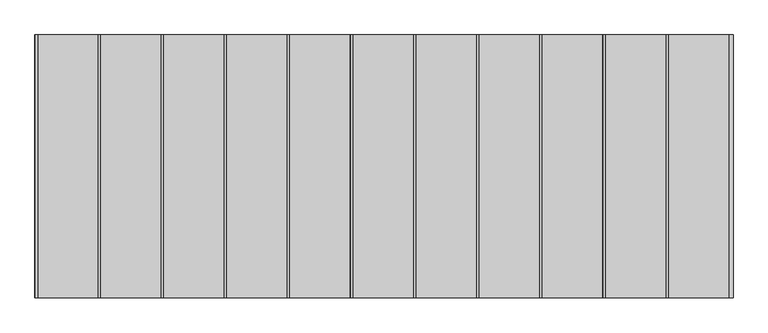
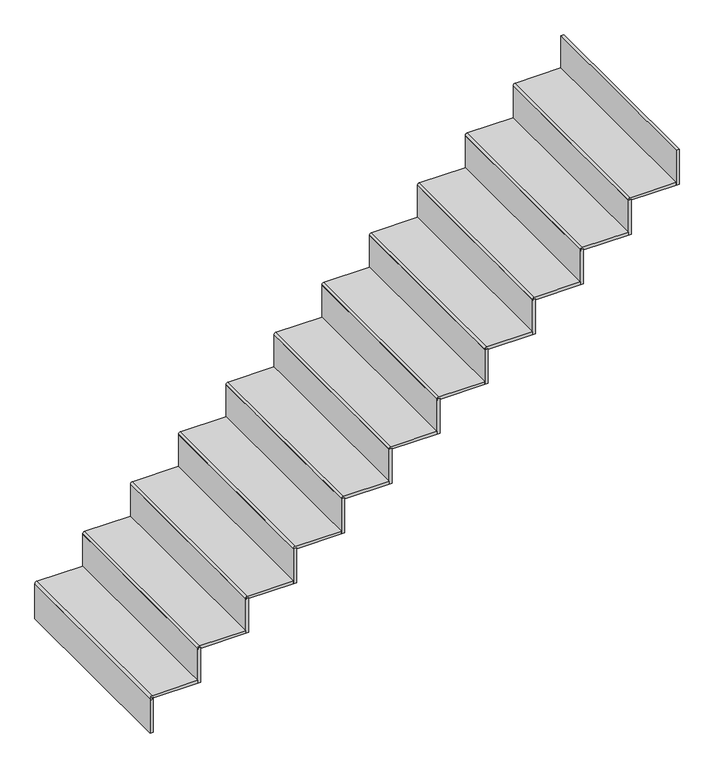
"""IFC4 building model written with IfcOpenShell, lengths in millimetres: stair flight geometry, メタル階段 15 mm 踏み板 15 mm 蹴上げ."""

from ifc_helpers import new_model, si_unit, point, frame, frame_2d, origin, place, context, project, spatial, polyline, circle_curve, trimmed, segment, composite_curve, outline, extrude, source, transform, mapped, element, save


def stair_flight_15dfc8d3(model_context):
    return source(origin(), model_context, "Body", "SweptSolid", [
        extrude(outline(composite_curve([segment(polyline([(1820.0, -3157.3880564), (1820.0, -3387.3880564)]), True, "CONTINUOUS"), segment(trimmed(circle_curve(frame_2d((1810.0, -3387.3880564)), 10.0), [point((1820.0, -3387.3880564))], [point((1800.0, -3387.3880564))], False, "CARTESIAN"), True, "CONTINUOUS"), segment(polyline([(1800.0, -3387.3880564), (1805.0, -3387.3880564), (1805.0, -3157.3880564), (1820.0, -3157.3880564)]), True, "CONTINUOUS")], self_intersect=False)), frame((0.0, 1281.5382733, 0.0), z_axis=(0.0, 1.0, 0.0), x_axis=(0.0, 0.0, 1.0)), (0.0, 0.0, 1.0), 1000.0),
        extrude(outline(polyline([(-3382.3880564, 1281.5382733), (-3397.3880564, 1281.5382733), (-3397.3880564, 2281.5382733), (-3382.3880564, 2281.5382733), (-3382.3880564, 1281.5382733)])), frame((0.0, 0.0, 1625.0), z_axis=(0.0, 0.0, 1.0), x_axis=(1.0, 0.0, 0.0)), (0.0, 0.0, 1.0), 185.0),
        extrude(outline(polyline([(-3142.3880564, 1281.5382733), (-3157.3880564, 1281.5382733), (-3157.3880564, 2281.5382733), (-3142.3880564, 2281.5382733), (-3142.3880564, 1281.5382733)])), frame((0.0, 0.0, 1805.0), z_axis=(0.0, 0.0, 1.0), x_axis=(1.0, 0.0, 0.0)), (0.0, 0.0, 1.0), 185.0),
        extrude(outline(composite_curve([segment(polyline([(2000.0, -2917.3880564), (2000.0, -3147.3880564)]), True, "CONTINUOUS"), segment(trimmed(circle_curve(frame_2d((1990.0, -3147.3880564)), 10.0), [point((2000.0, -3147.3880564))], [point((1980.0, -3147.3880564))], False, "CARTESIAN"), True, "CONTINUOUS"), segment(polyline([(1980.0, -3147.3880564), (1985.0, -3147.3880564), (1985.0, -2917.3880564), (2000.0, -2917.3880564)]), True, "CONTINUOUS")], self_intersect=False)), frame((0.0, 1281.5382733, 0.0), z_axis=(0.0, 1.0, 0.0), x_axis=(0.0, 0.0, 1.0)), (0.0, 0.0, 1.0), 1000.0),
        extrude(outline(polyline([(-2902.3880564, 1281.5382733), (-2917.3880564, 1281.5382733), (-2917.3880564, 2281.5382733), (-2902.3880564, 2281.5382733), (-2902.3880564, 1281.5382733)])), frame((0.0, 0.0, 1985.0), z_axis=(0.0, 0.0, 1.0), x_axis=(1.0, 0.0, 0.0)), (0.0, 0.0, 1.0), 185.0),
        extrude(outline(composite_curve([segment(polyline([(2180.0, -2677.3880564), (2180.0, -2907.3880564)]), True, "CONTINUOUS"), segment(trimmed(circle_curve(frame_2d((2170.0, -2907.3880564)), 10.0), [point((2180.0, -2907.3880564))], [point((2160.0, -2907.3880564))], False, "CARTESIAN"), True, "CONTINUOUS"), segment(polyline([(2160.0, -2907.3880564), (2165.0, -2907.3880564), (2165.0, -2677.3880564), (2180.0, -2677.3880564)]), True, "CONTINUOUS")], self_intersect=False)), frame((0.0, 1281.5382733, 0.0), z_axis=(0.0, 1.0, 0.0), x_axis=(0.0, 0.0, 1.0)), (0.0, 0.0, 1.0), 1000.0),
        extrude(outline(polyline([(-2662.3880564, 1281.5382733), (-2677.3880564, 1281.5382733), (-2677.3880564, 2281.5382733), (-2662.3880564, 2281.5382733), (-2662.3880564, 1281.5382733)])), frame((0.0, 0.0, 2165.0), z_axis=(0.0, 0.0, 1.0), x_axis=(1.0, 0.0, 0.0)), (0.0, 0.0, 1.0), 185.0),
        extrude(outline(composite_curve([segment(polyline([(2360.0, -2437.3880564), (2360.0, -2667.3880564)]), True, "CONTINUOUS"), segment(trimmed(circle_curve(frame_2d((2350.0, -2667.3880564)), 10.0), [point((2360.0, -2667.3880564))], [point((2340.0, -2667.3880564))], False, "CARTESIAN"), True, "CONTINUOUS"), segment(polyline([(2340.0, -2667.3880564), (2345.0, -2667.3880564), (2345.0, -2437.3880564), (2360.0, -2437.3880564)]), True, "CONTINUOUS")], self_intersect=False)), frame((0.0, 1281.5382733, 0.0), z_axis=(0.0, 1.0, 0.0), x_axis=(0.0, 0.0, 1.0)), (0.0, 0.0, 1.0), 1000.0),
        extrude(outline(polyline([(-2422.3880564, 1281.5382733), (-2437.3880564, 1281.5382733), (-2437.3880564, 2281.5382733), (-2422.3880564, 2281.5382733), (-2422.3880564, 1281.5382733)])), frame((0.0, 0.0, 2345.0), z_axis=(0.0, 0.0, 1.0), x_axis=(1.0, 0.0, 0.0)), (0.0, 0.0, 1.0), 185.0),
        extrude(outline(composite_curve([segment(polyline([(2540.0, -2197.3880564), (2540.0, -2427.3880564)]), True, "CONTINUOUS"), segment(trimmed(circle_curve(frame_2d((2530.0, -2427.3880564)), 10.0), [point((2540.0, -2427.3880564))], [point((2520.0, -2427.3880564))], False, "CARTESIAN"), True, "CONTINUOUS"), segment(polyline([(2520.0, -2427.3880564), (2525.0, -2427.3880564), (2525.0, -2197.3880564), (2540.0, -2197.3880564)]), True, "CONTINUOUS")], self_intersect=False)), frame((0.0, 1281.5382733, 0.0), z_axis=(0.0, 1.0, 0.0), x_axis=(0.0, 0.0, 1.0)), (0.0, 0.0, 1.0), 1000.0),
        extrude(outline(polyline([(-2182.3880564, 1281.5382733), (-2197.3880564, 1281.5382733), (-2197.3880564, 2281.5382733), (-2182.3880564, 2281.5382733), (-2182.3880564, 1281.5382733)])), frame((0.0, 0.0, 2525.0), z_axis=(0.0, 0.0, 1.0), x_axis=(1.0, 0.0, 0.0)), (0.0, 0.0, 1.0), 185.0),
        extrude(outline(composite_curve([segment(polyline([(2720.0, -1957.3880564), (2720.0, -2187.3880564)]), True, "CONTINUOUS"), segment(trimmed(circle_curve(frame_2d((2710.0, -2187.3880564)), 10.0), [point((2720.0, -2187.3880564))], [point((2700.0, -2187.3880564))], False, "CARTESIAN"), True, "CONTINUOUS"), segment(polyline([(2700.0, -2187.3880564), (2705.0, -2187.3880564), (2705.0, -1957.3880564), (2720.0, -1957.3880564)]), True, "CONTINUOUS")], self_intersect=False)), frame((0.0, 1281.5382733, 0.0), z_axis=(0.0, 1.0, 0.0), x_axis=(0.0, 0.0, 1.0)), (0.0, 0.0, 1.0), 1000.0),
        extrude(outline(polyline([(-1942.3880564, 1281.5382733), (-1957.3880564, 1281.5382733), (-1957.3880564, 2281.5382733), (-1942.3880564, 2281.5382733), (-1942.3880564, 1281.5382733)])), frame((0.0, 0.0, 2705.0), z_axis=(0.0, 0.0, 1.0), x_axis=(1.0, 0.0, 0.0)), (0.0, 0.0, 1.0), 185.0),
        extrude(outline(composite_curve([segment(polyline([(2900.0, -1717.3880564), (2900.0, -1947.3880564)]), True, "CONTINUOUS"), segment(trimmed(circle_curve(frame_2d((2890.0, -1947.3880564)), 10.0), [point((2900.0, -1947.3880564))], [point((2880.0, -1947.3880564))], False, "CARTESIAN"), True, "CONTINUOUS"), segment(polyline([(2880.0, -1947.3880564), (2885.0, -1947.3880564), (2885.0, -1717.3880564), (2900.0, -1717.3880564)]), True, "CONTINUOUS")], self_intersect=False)), frame((0.0, 1281.5382733, 0.0), z_axis=(0.0, 1.0, 0.0), x_axis=(0.0, 0.0, 1.0)), (0.0, 0.0, 1.0), 1000.0),
        extrude(outline(polyline([(-1702.3880564, 1281.5382733), (-1717.3880564, 1281.5382733), (-1717.3880564, 2281.5382733), (-1702.3880564, 2281.5382733), (-1702.3880564, 1281.5382733)])), frame((0.0, 0.0, 2885.0), z_axis=(0.0, 0.0, 1.0), x_axis=(1.0, 0.0, 0.0)), (0.0, 0.0, 1.0), 185.0),
        extrude(outline(composite_curve([segment(polyline([(3080.0, -1477.3880564), (3080.0, -1707.3880564)]), True, "CONTINUOUS"), segment(trimmed(circle_curve(frame_2d((3070.0, -1707.3880564)), 10.0), [point((3080.0, -1707.3880564))], [point((3060.0, -1707.3880564))], False, "CARTESIAN"), True, "CONTINUOUS"), segment(polyline([(3060.0, -1707.3880564), (3065.0, -1707.3880564), (3065.0, -1477.3880564), (3080.0, -1477.3880564)]), True, "CONTINUOUS")], self_intersect=False)), frame((0.0, 1281.5382733, 0.0), z_axis=(0.0, 1.0, 0.0), x_axis=(0.0, 0.0, 1.0)), (0.0, 0.0, 1.0), 1000.0),
        extrude(outline(polyline([(-1462.3880564, 1281.5382733), (-1477.3880564, 1281.5382733), (-1477.3880564, 2281.5382733), (-1462.3880564, 2281.5382733), (-1462.3880564, 1281.5382733)])), frame((0.0, 0.0, 3065.0), z_axis=(0.0, 0.0, 1.0), x_axis=(1.0, 0.0, 0.0)), (0.0, 0.0, 1.0), 185.0),
        extrude(outline(composite_curve([segment(polyline([(3260.0, -1237.3880564), (3260.0, -1467.3880564)]), True, "CONTINUOUS"), segment(trimmed(circle_curve(frame_2d((3250.0, -1467.3880564)), 10.0), [point((3260.0, -1467.3880564))], [point((3240.0, -1467.3880564))], False, "CARTESIAN"), True, "CONTINUOUS"), segment(polyline([(3240.0, -1467.3880564), (3245.0, -1467.3880564), (3245.0, -1237.3880564), (3260.0, -1237.3880564)]), True, "CONTINUOUS")], self_intersect=False)), frame((0.0, 1281.5382733, 0.0), z_axis=(0.0, 1.0, 0.0), x_axis=(0.0, 0.0, 1.0)), (0.0, 0.0, 1.0), 1000.0),
        extrude(outline(polyline([(-1222.3880564, 1281.5382733), (-1237.3880564, 1281.5382733), (-1237.3880564, 2281.5382733), (-1222.3880564, 2281.5382733), (-1222.3880564, 1281.5382733)])), frame((0.0, 0.0, 3245.0), z_axis=(0.0, 0.0, 1.0), x_axis=(1.0, 0.0, 0.0)), (0.0, 0.0, 1.0), 185.0),
        extrude(outline(composite_curve([segment(polyline([(3440.0, -997.3880564), (3440.0, -1227.3880564)]), True, "CONTINUOUS"), segment(trimmed(circle_curve(frame_2d((3430.0, -1227.3880564)), 10.0), [point((3440.0, -1227.3880564))], [point((3420.0, -1227.3880564))], False, "CARTESIAN"), True, "CONTINUOUS"), segment(polyline([(3420.0, -1227.3880564), (3425.0, -1227.3880564), (3425.0, -997.3880564), (3440.0, -997.3880564)]), True, "CONTINUOUS")], self_intersect=False)), frame((0.0, 1281.5382733, 0.0), z_axis=(0.0, 1.0, 0.0), x_axis=(0.0, 0.0, 1.0)), (0.0, 0.0, 1.0), 1000.0),
        extrude(outline(polyline([(-982.3880564, 1281.5382733), (-997.3880564, 1281.5382733), (-997.3880564, 2281.5382733), (-982.3880564, 2281.5382733), (-982.3880564, 1281.5382733)])), frame((0.0, 0.0, 3425.0), z_axis=(0.0, 0.0, 1.0), x_axis=(1.0, 0.0, 0.0)), (0.0, 0.0, 1.0), 185.0),
        extrude(outline(polyline([(-742.3880564, 1281.5382733), (-757.3880564, 1281.5382733), (-757.3880564, 2281.5382733), (-742.3880564, 2281.5382733), (-742.3880564, 1281.5382733)])), frame((0.0, 0.0, 3605.0), z_axis=(0.0, 0.0, 1.0), x_axis=(1.0, 0.0, 0.0)), (0.0, 0.0, 1.0), 185.0),
        extrude(outline(composite_curve([segment(polyline([(3620.0, -757.3880564), (3620.0, -987.3880564)]), True, "CONTINUOUS"), segment(trimmed(circle_curve(frame_2d((3610.0, -987.3880564)), 10.0), [point((3620.0, -987.3880564))], [point((3600.0, -987.3880564))], False, "CARTESIAN"), True, "CONTINUOUS"), segment(polyline([(3600.0, -987.3880564), (3605.0, -987.3880564), (3605.0, -757.3880564), (3620.0, -757.3880564)]), True, "CONTINUOUS")], self_intersect=False)), frame((0.0, 1281.5382733, 0.0), z_axis=(0.0, 1.0, 0.0), x_axis=(0.0, 0.0, 1.0)), (0.0, 0.0, 1.0), 1000.0),
    ])


if __name__ == "__main__":
    model = new_model("IFC4")
    model_context = context("Model", 3, world=origin())
    ifc_project = project(units=[si_unit("LENGTHUNIT", "METRE", prefix="MILLI")], contexts=[model_context])
    site = spatial("IfcSite", under=ifc_project)
    building = spatial("IfcBuilding", under=site)
    placement = place(None, origin())
    stair_flight_shape = stair_flight_15dfc8d3(model_context)
    element("IfcStairFlight", 1, ObjectType="メタル階段 15 mm 踏み板 15 mm 蹴上げ", at=placement, inside=building, context=model_context, shape_type="MappedRepresentation", body=[
        mapped(stair_flight_shape, transform((0.0, 0.0, 0.0), x_axis=(1.0, 0.0, 0.0), y_axis=(0.0, 1.0, 0.0), z_axis=(0.0, 0.0, 1.0))),
    ])
    save(model, "model.ifc")
